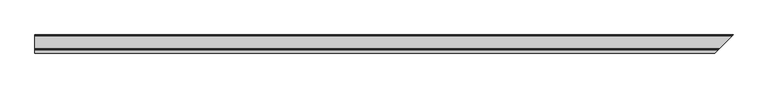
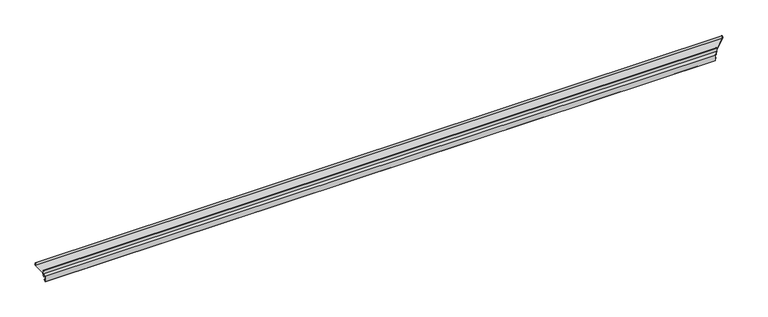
"""IFC4 building model written with IfcOpenShell, lengths in millimetres: proxy geometry, АК1_1 Примыкание к фундаментной балке : АК1_1 Примыкание к фундаментной балке."""

import ifcopenshell
import ifcopenshell.guid

model = None  # the IFC model being written
_history = None  # IfcOwnerHistory: only IFC2X3 demands one
_inside = {}  # id of a spatial element -> (the spatial element, [elements in it])
_under = {}  # id of a project, library or spatial element -> (it, [spatial elements below it])
_declared = {}  # id of a project -> (the project, [libraries it declares])
_typed = {}  # id of a type object -> (the type object, [elements of that type])
_made_of = {}  # id of a material, layer set ... -> (it, [elements and type objects made of it])


def new_model(schema):
    """Start an empty IFC model of exactly this schema.

    Asked for "IFC4X3", IfcOpenShell would pick the latest addendum, in which some entities
    have other attributes; the version numbers below select the first issue.
    IFC2X3 requires an IfcOwnerHistory on every rooted entity: one is made here for all.
    """
    global model, _history
    if schema == "IFC4X3":
        model = ifcopenshell.file(schema_version=(4, 3, 0, 0))
    else:
        model = ifcopenshell.file(schema=schema)
    _inside.clear()
    _under.clear()
    _declared.clear()
    _typed.clear()
    _made_of.clear()
    _history = None
    if model.schema == "IFC2X3":
        org = make("IfcOrganization", Name="unknown")
        user = make(
            "IfcPersonAndOrganization",
            ThePerson=make("IfcPerson", FamilyName="unknown"),
            TheOrganization=org,
        )
        app = make(
            "IfcApplication",
            ApplicationDeveloper=org,
            Version="unknown",
            ApplicationFullName="unknown",
            ApplicationIdentifier="unknown",
        )
        _history = make(
            "IfcOwnerHistory",
            OwningUser=user,
            OwningApplication=app,
            ChangeAction="ADDED",
            CreationDate=0,
        )
    return model


def make(cls, **values):
    """One entity of the class cls with the attributes given. An attribute that is None is left unset."""
    return model.create_entity(
        cls, **{name: value for name, value in values.items() if value is not None}
    )


def rooted(cls, **values):
    """An entity with a GlobalId (a new one), such as an element, a storey or a relation."""
    return make(cls, GlobalId=ifcopenshell.guid.new(), OwnerHistory=_history, **values)


def si_unit(unit_type, name, prefix=None):
    """IfcSIUnit, for example si_unit("LENGTHUNIT", "METRE", prefix="MILLI")."""
    return make("IfcSIUnit", UnitType=unit_type, Prefix=prefix, Name=name)


def assignment(units):
    """IfcUnitAssignment: the units of a project."""
    return None if units is None else make("IfcUnitAssignment", Units=units)


def point(xyz):
    """IfcCartesianPoint."""
    return None if xyz is None else make("IfcCartesianPoint", Coordinates=xyz)


def direction(xyz):
    """IfcDirection."""
    return None if xyz is None else make("IfcDirection", DirectionRatios=xyz)


def frame(location, z_axis=None, x_axis=None):
    """IfcAxis2Placement3D, a coordinate frame: its origin and axes. An axis left out is left unset."""
    return make(
        "IfcAxis2Placement3D",
        Location=point(location),
        Axis=direction(z_axis),
        RefDirection=direction(x_axis),
    )


def origin():
    """The frame at (0, 0, 0) with its axes left unset."""
    return frame((0.0, 0.0, 0.0))


def place(relative_to, where):
    """IfcLocalPlacement: puts the frame where relative to a parent placement (None: the world)."""
    return make(
        "IfcLocalPlacement", PlacementRelTo=relative_to, RelativePlacement=where
    )


def context(
    kind, dimensions, precision=None, world=None, true_north=None, identifier=None
):
    """IfcGeometricRepresentationContext, for example the 3D "Model" context."""
    return make(
        "IfcGeometricRepresentationContext",
        ContextIdentifier=identifier,
        ContextType=kind,
        CoordinateSpaceDimension=dimensions,
        Precision=precision,
        WorldCoordinateSystem=world,
        TrueNorth=true_north,
    )


def project(units=None, contexts=None):
    """IfcProject with its units and contexts."""
    return rooted(
        "IfcProject",
        Name="project",
        RepresentationContexts=contexts,
        UnitsInContext=assignment(units),
    )


def spatial(cls, under=None, at=None, **own):
    """A site, building, storey or space (cls), placed at a placement, below another one or the project."""
    s = rooted(cls, ObjectPlacement=at, **own)
    if under is not None:
        _under.setdefault(under.id(), (under, []))[1].append(s)
    return s


def faces_of(points, faces, orient=None, outer=None):
    """IfcFace entities. A face is a list of loops; a loop is a list of indices into points, from 0.

    orient and outer hold one flag for each loop. By default every Orientation is true, the
    first loop of a face is its IfcFaceOuterBound and the others are IfcFaceBound.
    """
    made = []
    for i, loops in enumerate(faces):
        bounds = []
        for j, loop in enumerate(loops):
            is_outer = j == 0 if outer is None else outer[i][j]
            bounds.append(
                make(
                    "IfcFaceOuterBound" if is_outer else "IfcFaceBound",
                    Bound=make("IfcPolyLoop", Polygon=[points[k] for k in loop]),
                    Orientation=True if orient is None else orient[i][j],
                )
            )
        made.append(make("IfcFace", Bounds=bounds))
    return made


def faceted_brep(points, faces, orient=None, outer=None, voids=None):
    """IfcFacetedBrep: a solid bounded by flat faces; with voids (closed shells), ...WithVoids."""
    shared = [point(p) for p in points]
    hull = make("IfcClosedShell", CfsFaces=faces_of(shared, faces, orient, outer))
    if voids is None:
        return make("IfcFacetedBrep", Outer=hull)
    return make(
        "IfcFacetedBrepWithVoids",
        Outer=hull,
        Voids=[
            make(cls, CfsFaces=faces_of(shared, fs, o, b)) for cls, fs, o, b in voids
        ],
    )


def shape(context_of_items, identifier, shape_type, items):
    """IfcShapeRepresentation: the items that make up one representation, for example the "Body"."""
    return make(
        "IfcShapeRepresentation",
        ContextOfItems=context_of_items,
        RepresentationIdentifier=identifier,
        RepresentationType=shape_type,
        Items=items,
    )


def source(mapping_origin, context_of_items, identifier, shape_type, items):
    """IfcRepresentationMap: a shape defined once, which mapped items show again and again."""
    return make(
        "IfcRepresentationMap",
        MappingOrigin=mapping_origin,
        MappedRepresentation=shape(context_of_items, identifier, shape_type, items),
    )


def transform(
    local_origin,
    x_axis=None,
    y_axis=None,
    z_axis=None,
    scale=None,
    scale2=None,
    scale3=None,
    uniform=True,
):
    """IfcCartesianTransformationOperator3D, or its non-uniform kind. x_axis, y_axis, z_axis: its Axis1, 2, 3."""
    if uniform:
        return make(
            "IfcCartesianTransformationOperator3D",
            Axis1=direction(x_axis),
            Axis2=direction(y_axis),
            LocalOrigin=point(local_origin),
            Scale=scale,
            Axis3=direction(z_axis),
        )
    return make(
        "IfcCartesianTransformationOperator3DnonUniform",
        Axis1=direction(x_axis),
        Axis2=direction(y_axis),
        LocalOrigin=point(local_origin),
        Scale=scale,
        Axis3=direction(z_axis),
        Scale2=scale2,
        Scale3=scale3,
    )


def mapped(mapping_source, mapping_target):
    """IfcMappedItem: shows the shape of a source again, moved by a transform."""
    return make(
        "IfcMappedItem", MappingSource=mapping_source, MappingTarget=mapping_target
    )


def made_of(thing, what):
    """Note that an element or type object is made of a material, layer set ...; save() writes the relation."""
    if what is not None:
        _made_of.setdefault(what.id(), (what, []))[1].append(thing)
    return thing


def element(
    cls,
    number,
    at=None,
    inside=None,
    cuts=None,
    type_object=None,
    material=None,
    context=None,
    identifier="Body",
    shape_type=None,
    held_by="IfcProductDefinitionShape",
    body=None,
    shapes=None,
    **own,
):
    """One element of the class cls, such as IfcWall. Its Tag is "e" and its number.

    at: its placement. inside: the storey or other place that contains it. cuts: it is an
    opening in that element (IfcRelVoidsElement). A single representation is given by context,
    identifier, shape_type and body (its items); several are given by shapes. held_by: the class
    of the entity that holds the representations. save() writes the other relations.
    """
    e = rooted(cls, Tag="e%d" % number, ObjectPlacement=at, **own)
    if body is not None:
        shapes = [shape(context, identifier, shape_type, body)]
    if shapes is not None:
        e.Representation = make(held_by, Representations=shapes)
    if inside is not None:
        _inside.setdefault(inside.id(), (inside, []))[1].append(e)
    if cuts is not None:
        rooted(
            "IfcRelVoidsElement", RelatingBuildingElement=cuts, RelatedOpeningElement=e
        )
    if type_object is not None:
        _typed.setdefault(type_object.id(), (type_object, []))[1].append(e)
    return made_of(e, material)


def aggregate(whole, parts):
    """IfcRelAggregates: a whole, such as a stair, and the parts it consists of."""
    return rooted("IfcRelAggregates", RelatingObject=whole, RelatedObjects=parts)


def save(model, path):
    """Write the relations noted so far, then the file.

    IfcRelAggregates (storeys below a building ...), IfcRelContainedInSpatialStructure (elements
    in a storey), IfcRelDefinesByType, IfcRelAssociatesMaterial and IfcRelDeclares: one each for
    every whole, place, type object, material and project.
    """
    for whole, parts in _under.values():
        aggregate(whole, parts)
    for where, things in _inside.values():
        rooted(
            "IfcRelContainedInSpatialStructure",
            RelatedElements=things,
            RelatingStructure=where,
        )
    for kind, things in _typed.values():
        rooted("IfcRelDefinesByType", RelatedObjects=things, RelatingType=kind)
    for what, things in _made_of.values():
        rooted("IfcRelAssociatesMaterial", RelatedObjects=things, RelatingMaterial=what)
    for by, libraries in _declared.values():
        rooted("IfcRelDeclares", RelatingContext=by, RelatedDefinitions=libraries)
    model.write(path)


def generic_models_05f7afde(model_context):
    return source(origin(), model_context, "Body", "Brep", [
        faceted_brep([(0.0, 116.5, 9.0), (0.0, 120.7449534, 17.660254), (5960.7449534, 120.7449534, 17.660254), (5956.5, 116.5, 9.0), (0.0, 1.5, 9.0), (5841.5, 1.5, 9.0), (0.0, 0.0, 6.4019238), (5840.0, 0.0, 6.4019238), (5826.5, -13.5, -16.9807621), (0.0, -13.5, -16.9807621), (0.0, -14.3660254, -16.4807621), (5825.6339746, -14.3660254, -16.4807621), (0.0, 0.9226497, 10.0), (0.0, 0.0, 8.4019238), (5840.0, 0.0, 8.4019238), (5840.9226497, 0.9226497, 10.0), (0.0, 115.9226497, 10.0), (5955.9226497, 115.9226497, 10.0), (0.0, 119.8842356, 18.0821477), (5959.8842356, 119.8842356, 18.0821477)], [[[0, 1, 2, 3]], [[4, 0, 3, 5]], [[6, 4, 5, 7, 8, 9]], [[10, 9, 8, 11]], [[12, 13, 10, 11, 14, 15]], [[16, 12, 15, 17]], [[18, 16, 17, 19]], [[1, 18, 19, 2]], [[6, 13, 12, 16, 18, 1, 0, 4]], [[13, 6, 9, 10]], [[14, 7, 5, 3, 2, 19, 17, 15]], [[7, 14, 11, 8]]]),
        faceted_brep([(0.0, -4.5, 33.6294353), (0.0, -4.5, 3.6294353), (5835.5, -4.5, 3.6294353), (5835.5, -4.5, 33.6294353), (0.0, -3.5, 33.6294353), (5836.5, -3.5, 33.6294353), (0.0, -3.5, 2.7903356), (5836.5, -3.5, 2.7903356), (0.0, -33.0442326, -2.4191097), (5806.9557674, -33.0442326, -2.4191097), (0.0, -33.0442326, -49.1657965), (5806.9557674, -33.0442326, -49.1657965), (0.0, -20.6092037, -36.7307676), (5819.3907963, -20.6092037, -36.7307676), (0.0, -19.902097, -37.4378744), (5820.097903, -19.902097, -37.4378744), (0.0, -34.0442326, -51.58001), (5805.9557674, -34.0442326, -51.58001), (0.0, -34.0442326, -1.58001), (5805.9557674, -34.0442326, -1.58001)], [[[0, 1, 2, 3]], [[4, 0, 3, 5]], [[6, 4, 5, 7]], [[8, 6, 7, 9]], [[10, 8, 9, 11]], [[12, 10, 11, 13]], [[14, 12, 13, 15]], [[16, 14, 15, 17]], [[18, 16, 17, 19]], [[1, 18, 19, 2]], [[1, 0, 4, 6, 8, 10, 12, 14, 16, 18]], [[3, 2, 19, 17, 15, 13, 11, 9, 7, 5]]]),
        faceted_brep([(0.0, -3.5, 35.0), (0.0, -3.5, 10.0), (5836.5, -3.5, 10.0), (5836.5, -3.5, 35.0), (0.0, -1.5, 35.0), (5838.5, -1.5, 35.0), (0.0, -1.5, 12.0), (5838.5, -1.5, 12.0), (0.0, 112.5, 12.0), (0.0, 0.0, 12.0), (5840.0, 0.0, 12.0), (5952.5, 112.5, 12.0), (0.0, 112.5, 35.0), (5952.5, 112.5, 35.0), (0.0, 114.5, 35.0), (5954.5, 114.5, 35.0), (0.0, 114.5, 10.0), (5954.5, 114.5, 10.0), (0.0, 0.0, 10.0), (5840.0, 0.0, 10.0)], [[[0, 1, 2, 3]], [[4, 0, 3, 5]], [[6, 4, 5, 7]], [[8, 9, 6, 7, 10, 11]], [[12, 8, 11, 13]], [[14, 12, 13, 15]], [[16, 14, 15, 17]], [[18, 16, 17, 19, 2, 1]], [[9, 18, 1, 0, 4, 6]], [[19, 10, 7, 5, 3, 2]], [[18, 9, 8, 12, 14, 16]], [[10, 19, 17, 15, 13, 11]]]),
    ])


if __name__ == "__main__":
    model = new_model("IFC4")
    model_context = context("Model", 3, world=origin())
    ifc_project = project(units=[si_unit("LENGTHUNIT", "METRE", prefix="MILLI")], contexts=[model_context])
    site = spatial("IfcSite", under=ifc_project)
    building = spatial("IfcBuilding", under=site)
    placement = place(None, origin())
    generic_models_shape = generic_models_05f7afde(model_context)
    element("IfcBuildingElementProxy", 1, Name="АК1_1 Примыкание к фундаментной балке : АК1_1 Примыкание к фундаментной балке", ObjectType="АК1_1 Примыкание к фундаментной балке : АК1_1 Примыкание к фундаментной балке", at=placement, inside=building, context=model_context, shape_type="MappedRepresentation", body=[
        mapped(generic_models_shape, transform((0.0, 0.0, 0.0), x_axis=(1.0, 0.0, 0.0), y_axis=(0.0, 1.0, 0.0), z_axis=(0.0, 0.0, 1.0))),
    ])
    save(model, "model.ifc")
